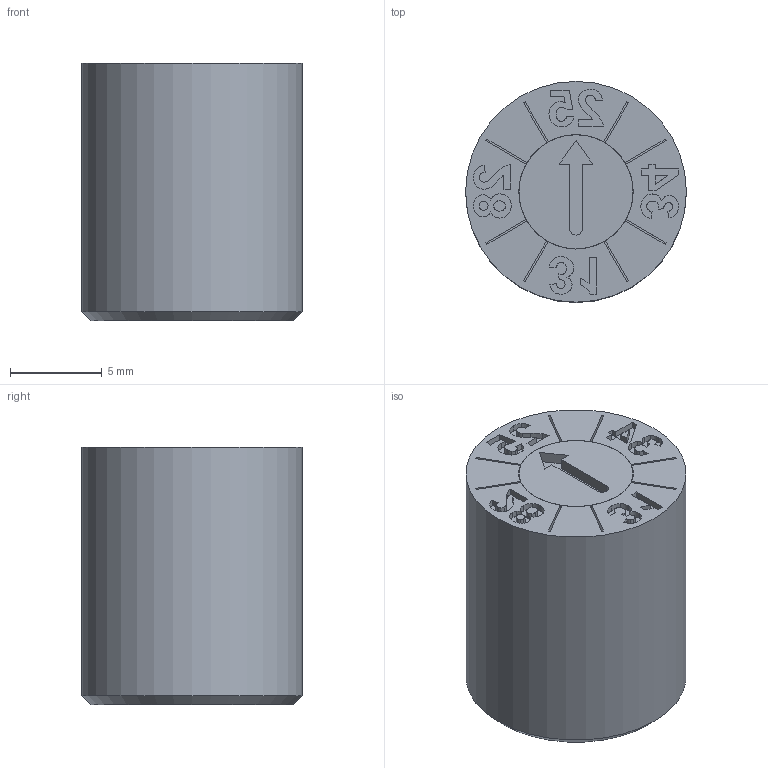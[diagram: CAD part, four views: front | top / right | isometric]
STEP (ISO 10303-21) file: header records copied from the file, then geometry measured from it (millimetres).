
FILE_DESCRIPTION(/* description */ (''),/* implementation_level */ '2;1');
FILE_NAME(/* name */ 'D2300-YEE12.step',/* time_stamp */ '2025-06-30T13:32:29+02:00',/* author */ (''),/* organization */ (''),/* preprocessor_version */ 'ST-DEVELOPER v20.1',/* originating_system */ 'Autodesk Translation Framework v14.10.0.0',/* authorisation */ '');
FILE_SCHEMA (('CONFIG_CONTROL_DESIGN','AUTOMOTIVE_DESIGN { 1 0 10303 214 3 1 1 }'));
Length unit declared in the file: millimetre
Products named in the file (1): D2300-YEE12
Bounding box: 12 x 12 x 14 mm (x, y, z)
Volume: 1571.7 mm3; surface area: 827 mm2
Topology: 1 solids, 1 shells, 232 faces, 647 edges, 431 vertices
Faces by surface type: bspline 133, plane 86, cylinder 12, cone 1
Full cylindrical faces by diameter (mm): 6.2 x1, 6.22 x1, 12 x1
Entity records: 8687 total; most frequent: CARTESIAN_POINT 3572, ORIENTED_EDGE 1294, EDGE_CURVE 647, DIRECTION 622, VERTEX_POINT 431, LINE 340, VECTOR 340, B_SPLINE_CURVE_WITH_KNOTS 266
